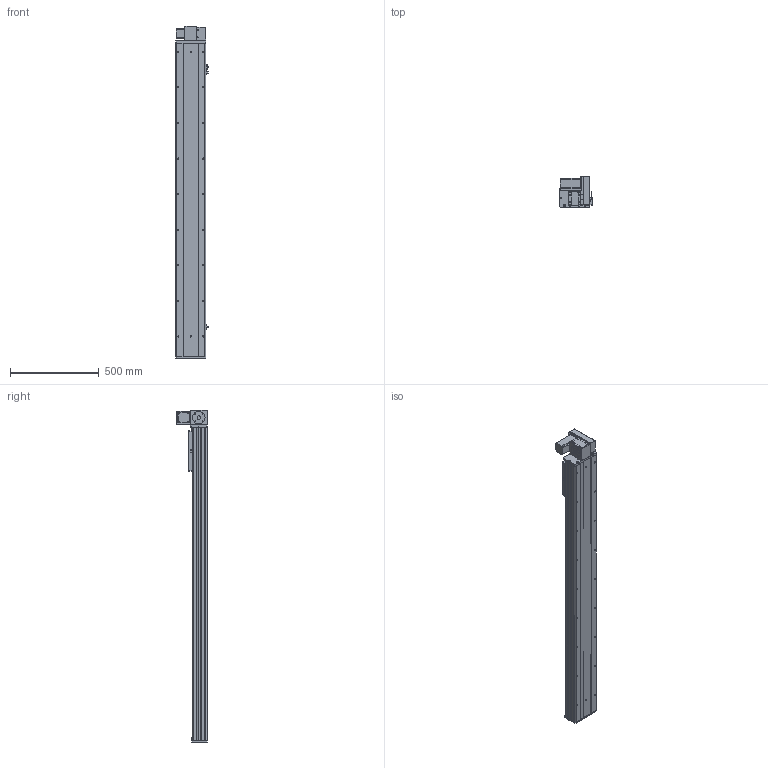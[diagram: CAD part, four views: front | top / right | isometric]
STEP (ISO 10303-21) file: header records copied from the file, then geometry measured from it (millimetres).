
FILE_DESCRIPTION (( 'STEP AP203' ), '1' );
FILE_NAME ('Y170CB-D105-S1450-UR-P400W.STEP', '2020-02-20T04:13:59', ( '微软用户' ), ( '微软中国' ), 'SwSTEP 2.0', 'SolidWorks 2017', '' );
FILE_SCHEMA (( 'CONFIG_CONTROL_DESIGN' ));
Length unit declared in the file: millimetre
Products named in the file (18): 70CB-詩湍--; san松下电机400不带刹车----; Y100-135俋离換覜ん--; 70CB-掛极-; Y170CB-陔俋离換覜結え---; --70CB --喘謫眊楊擘啣-; Y1埴倛裔; 70CB-耜裔啣-; 17B-耜蚾蟀諉啣----; 70C--詩湍揤踡え-; 00B-俋欶BM--163; 70CB--耜裔; 70B喘謫眊----; 70C-雄赽釱-奻-; B-源倛裔啣; Y170CB-D105-S1450-UR-P400W; 0C--雄赽釱俋欶-170; 0B-萇儂楊擘啣
Assembly tree (21 placements, depth 2):
  Y170CB-D105-S1450-UR-P400W
    B-源倛裔啣
    0B-萇儂楊擘啣
    san松下电机400不带刹车----
    70CB-掛极-
    --70CB --喘謫眊楊擘啣-
    70CB-耜裔啣-  x2
    70C--詩湍揤踡え-  x2
    70CB--耜裔
    70C-雄赽釱-奻-
    0C--雄赽釱俋欶-170
    70CB-詩湍--
    Y100-135俋离換覜ん--  x3
    Y170CB-陔俋离換覜結え---
    Y1埴倛裔
    17B-耜蚾蟀諉啣----
    00B-俋欶BM--163
    70B喘謫眊----
Bounding box: 183.5 x 174 x 1866 mm (x, y, z)
Volume: 8311696.6 mm3; surface area: 2988784.2 mm2
Topology: 21 solids, 21 shells, 1023 faces, 2741 edges, 1818 vertices
Faces by surface type: cylinder 537, plane 462, cone 24
Entity records: 32620 total; most frequent: CARTESIAN_POINT 5976, DIRECTION 5306, ORIENTED_EDGE 4964, EDGE_CURVE 2482, AXIS2_PLACEMENT_3D 1948, VERTEX_POINT 1648, LINE 1410, VECTOR 1410
